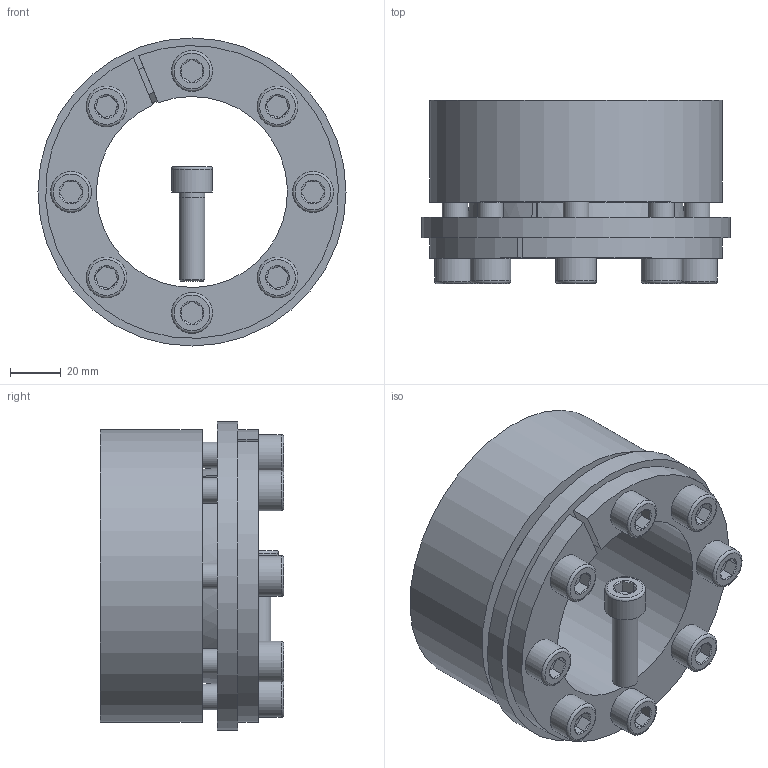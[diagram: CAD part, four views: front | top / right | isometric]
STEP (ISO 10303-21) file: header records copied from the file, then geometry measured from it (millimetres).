
FILE_DESCRIPTION( ( 'Unknown' ), '1' );
FILE_NAME( 'C:/Dokumente und Einstellungen/Sven/Desktop/homepage/cad - homepage/KBS71/KBS 71 - 75 x 115.stp', 'Unknown', ( 'Unknown' ), ( 'Unknown' ), 'XStep 1.0', 'Unknown', ' ' );
FILE_SCHEMA( ( 'automotive_design' ) );
Length unit declared in the file: millimetre
Products named in the file (3): Assem1; KBS 71 - 75 x 115; ISO EN DIN 4762 M10x35
Bounding box: 121 x 72 x 121 mm (x, y, z)
Volume: 663431.1 mm3; surface area: 167323.4 mm2
Topology: 11 solids, 11 shells, 305 faces, 659 edges, 394 vertices
Faces by surface type: plane 140, cylinder 76, cone 71, torus 18
Full cylindrical faces by diameter (mm): 9 x9, 10 x50, 16 x9, 121 x2
Entity records: 2318 total; most frequent: CARTESIAN_POINT 365, DIRECTION 352, ORIENTED_EDGE 272, AXIS2_PLACEMENT_3D 151, EDGE_CURVE 136, EDGE_LOOP 122, VERTEX_POINT 96, FACE_OUTER_BOUND 88
